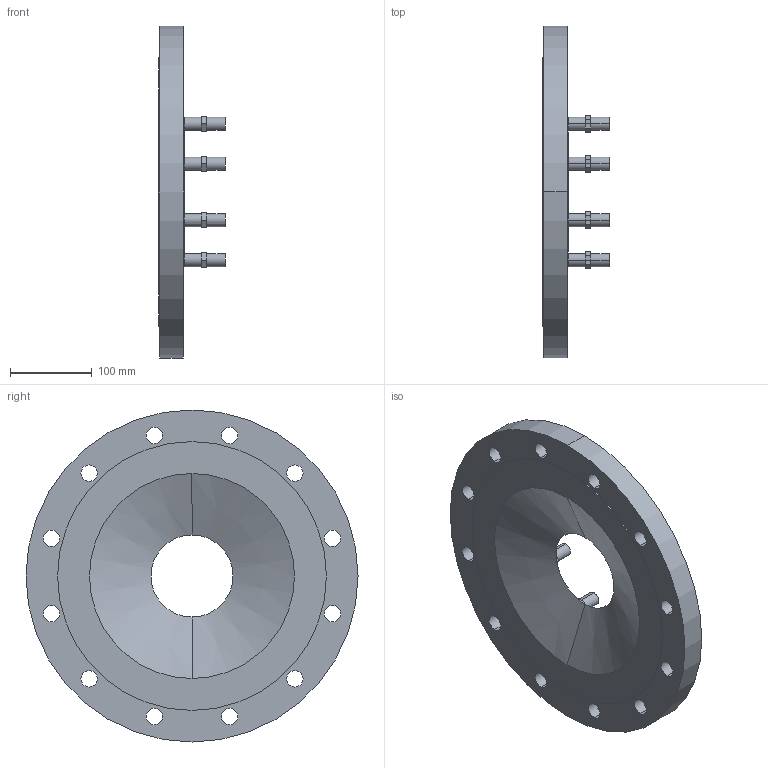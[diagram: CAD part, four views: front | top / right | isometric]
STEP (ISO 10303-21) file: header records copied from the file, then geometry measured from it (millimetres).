
FILE_DESCRIPTION(('STEP AP214'),'1');
FILE_NAME('S:/EK/USER/CAT6/3DHomepage_27-04-2012/VDI-Rohrsysteme_und_Stahlrohre/0802_(8110)/0802_PN16_DN250_DN100.STP','2013-01-25T07:58:08',(' '),(' '),'Spatial InterOp 3D',' ',' ');
FILE_SCHEMA(('automotive_design'));
Length unit declared in the file: millimetre
Products named in the file (18): 3D-Objekt
Bounding box: 81 x 405 x 405 mm (x, y, z)
Volume: 3035206.4 mm3; surface area: 388859.2 mm2
Topology: 18 solids, 18 shells, 135 faces, 294 edges, 196 vertices
Faces by surface type: plane 85, cylinder 48, cone 2
Entity records: 5260 total; most frequent: DIRECTION 700, CARTESIAN_POINT 643, ORIENTED_EDGE 588, EDGE_CURVE 294, AXIS2_PLACEMENT_3D 253, VERTEX_POINT 196, LINE 194, VECTOR 194
